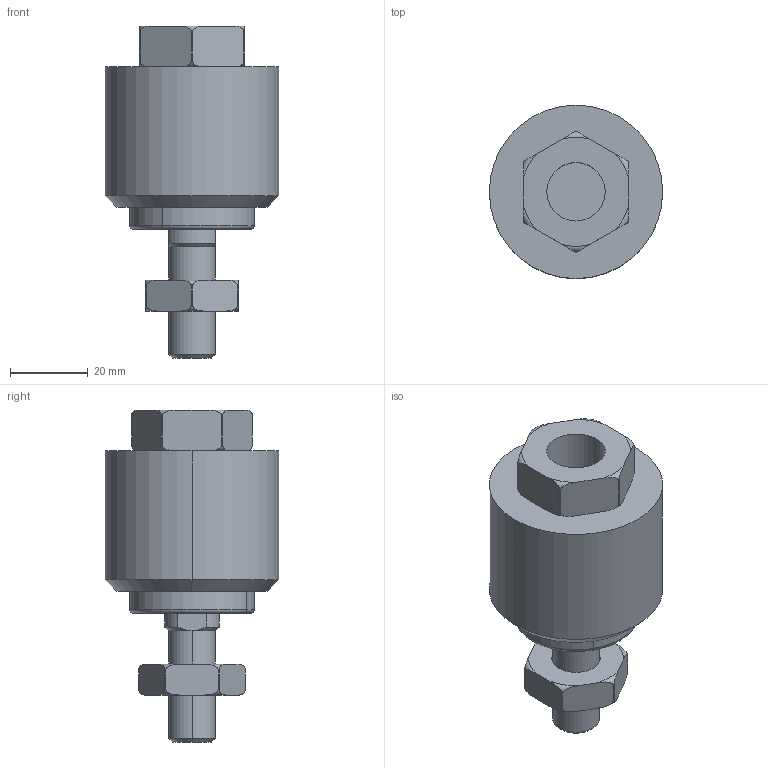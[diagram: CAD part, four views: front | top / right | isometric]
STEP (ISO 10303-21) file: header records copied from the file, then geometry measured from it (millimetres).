
FILE_DESCRIPTION(('CATIA V5 STEP Exchange'),'2;1');
FILE_NAME('D:\stp file for catalog\BAST-FC\FC 16.stp','2018-06-12T05:59:38+00:00',('none'),('none'),'CATIA Version 5-6 Release 2016','CATIA V5 STEP AP203','none');
FILE_SCHEMA(('CONFIG_CONTROL_DESIGN'));
Length unit declared in the file: millimetre
Products named in the file (1): FC 16
Bounding box: 44.5 x 44.5 x 85.21 mm (x, y, z)
Volume: 69359 mm3; surface area: 13878.9 mm2
Topology: 2 solids, 2 shells, 89 faces, 224 edges, 144 vertices
Faces by surface type: torus 28, cylinder 28, plane 23, cone 10
Entity records: 3082 total; most frequent: CARTESIAN_POINT 1159, ORIENTED_EDGE 448, DIRECTION 276, EDGE_CURVE 224, AXIS2_PLACEMENT_3D 149, VERTEX_POINT 144, CIRCLE 96, EDGE_LOOP 96
